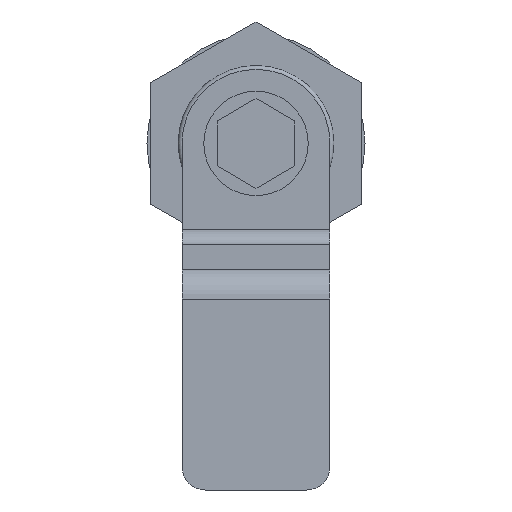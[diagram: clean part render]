
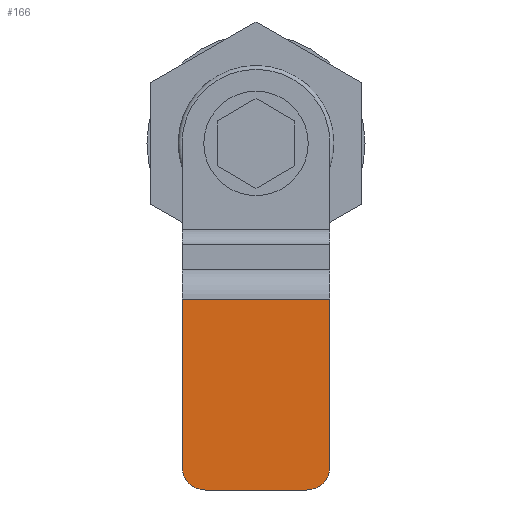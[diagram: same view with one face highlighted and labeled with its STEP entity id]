
A CAD part, front view. The second image highlights one B-rep face of the part: STEP entity #166.
In plain terms, the highlighted planar face has unit normal (0, -1, 0).
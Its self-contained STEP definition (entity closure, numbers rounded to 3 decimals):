
#57 = VERTEX_POINT ( 'NONE', #89 ) ;
#65 = DIRECTION ( 'NONE',  ( 1., 0., 0. ) ) ;
#89 = CARTESIAN_POINT ( 'NONE',  ( -9.5, -18., -41.5 ) ) ;
#92 = DIRECTION ( 'NONE',  ( 0., -1., 0. ) ) ;
#98 = DIRECTION ( 'NONE',  ( 0., 0., -1. ) ) ;
#110 = VERTEX_POINT ( 'NONE', #1050 ) ;
#111 = CARTESIAN_POINT ( 'NONE',  ( 9.5, -18., -44.5 ) ) ;
#120 = DIRECTION ( 'NONE',  ( 0., 0., -1. ) ) ;
#166 = ADVANCED_FACE ( 'NONE', ( #641 ), #1166, .T. ) ;
#251 = AXIS2_PLACEMENT_3D ( 'NONE', #438, #1484, #1495 ) ;
#273 = EDGE_CURVE ( 'NONE', #57, #752, #991, .T. ) ;
#293 = LINE ( 'NONE', #1096, #993 ) ;
#312 = ORIENTED_EDGE ( 'NONE', *, *, #1599, .T. ) ;
#361 = CARTESIAN_POINT ( 'NONE',  ( 9.5, -18., -41.5 ) ) ;
#363 = ORIENTED_EDGE ( 'NONE', *, *, #799, .T. ) ;
#392 = VECTOR ( 'NONE', #120, 1000. ) ;
#438 = CARTESIAN_POINT ( 'NONE',  ( -6.5, -18., -41.5 ) ) ;
#477 = DIRECTION ( 'NONE',  ( 0., 0., -1. ) ) ;
#508 = DIRECTION ( 'NONE',  ( 0., -1., 0. ) ) ;
#542 = VERTEX_POINT ( 'NONE', #621 ) ;
#578 = VECTOR ( 'NONE', #65, 1000. ) ;
#598 = LINE ( 'NONE', #1005, #1185 ) ;
#618 = CARTESIAN_POINT ( 'NONE',  ( -9.5, -18., -20. ) ) ;
#621 = CARTESIAN_POINT ( 'NONE',  ( 9.5, -18., -20. ) ) ;
#641 = FACE_OUTER_BOUND ( 'NONE', #701, .T. ) ;
#701 = EDGE_LOOP ( 'NONE', ( #363, #312, #1163, #1087, #845, #1494 ) ) ;
#710 = DIRECTION ( 'NONE',  ( -1., 0., 0. ) ) ;
#731 = CARTESIAN_POINT ( 'NONE',  ( -6.5, -18., -44.5 ) ) ;
#752 = VERTEX_POINT ( 'NONE', #731 ) ;
#799 = EDGE_CURVE ( 'NONE', #752, #110, #1145, .T. ) ;
#845 = ORIENTED_EDGE ( 'NONE', *, *, #1167, .F. ) ;
#912 = AXIS2_PLACEMENT_3D ( 'NONE', #1362, #92, #477 ) ;
#933 = AXIS2_PLACEMENT_3D ( 'NONE', #1674, #508, #98 ) ;
#936 = EDGE_CURVE ( 'NONE', #542, #1141, #1322, .T. ) ;
#991 = CIRCLE ( 'NONE', #251, 3. ) ;
#993 = VECTOR ( 'NONE', #710, 1000. ) ;
#1005 = CARTESIAN_POINT ( 'NONE',  ( -9.5, -18., -44.5 ) ) ;
#1014 = CARTESIAN_POINT ( 'NONE',  ( -46.215, -18., -44.5 ) ) ;
#1021 = EDGE_CURVE ( 'NONE', #542, #1237, #293, .T. ) ;
#1050 = CARTESIAN_POINT ( 'NONE',  ( 6.5, -18., -44.5 ) ) ;
#1087 = ORIENTED_EDGE ( 'NONE', *, *, #1021, .T. ) ;
#1096 = CARTESIAN_POINT ( 'NONE',  ( -46.215, -18., -20. ) ) ;
#1141 = VERTEX_POINT ( 'NONE', #361 ) ;
#1145 = LINE ( 'NONE', #1014, #578 ) ;
#1163 = ORIENTED_EDGE ( 'NONE', *, *, #936, .F. ) ;
#1166 = PLANE ( 'NONE',  #933 ) ;
#1167 = EDGE_CURVE ( 'NONE', #57, #1237, #598, .T. ) ;
#1185 = VECTOR ( 'NONE', #1533, 1000. ) ;
#1237 = VERTEX_POINT ( 'NONE', #618 ) ;
#1322 = LINE ( 'NONE', #111, #392 ) ;
#1325 = CIRCLE ( 'NONE', #912, 3. ) ;
#1362 = CARTESIAN_POINT ( 'NONE',  ( 6.5, -18., -41.5 ) ) ;
#1484 = DIRECTION ( 'NONE',  ( 0., -1., 0. ) ) ;
#1494 = ORIENTED_EDGE ( 'NONE', *, *, #273, .T. ) ;
#1495 = DIRECTION ( 'NONE',  ( 0., 0., -1. ) ) ;
#1533 = DIRECTION ( 'NONE',  ( 0., 0., 1. ) ) ;
#1599 = EDGE_CURVE ( 'NONE', #110, #1141, #1325, .T. ) ;
#1674 = CARTESIAN_POINT ( 'NONE',  ( -46.215, -18., -44.5 ) ) ;
